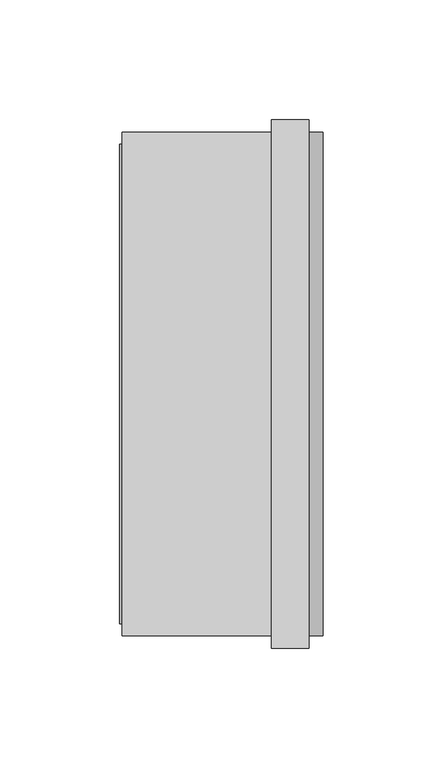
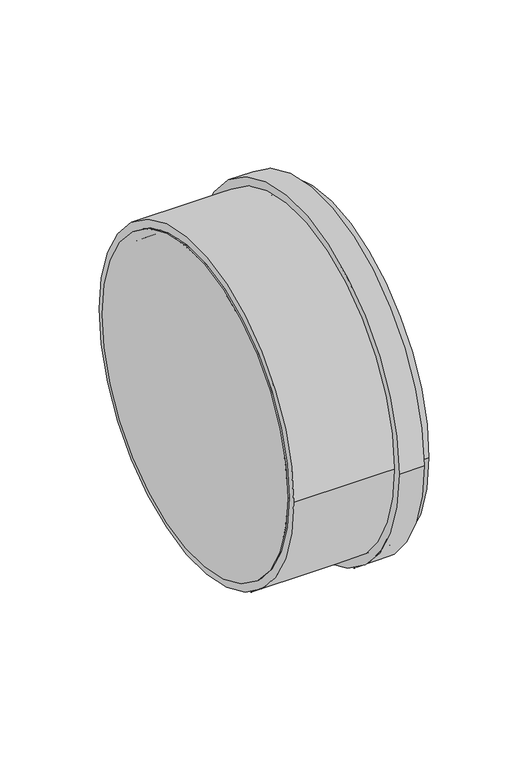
"""IFC4 building model written with IfcOpenShell, lengths in millimetres: pipe fitting geometry, Superdrain SKM-Plug : Superdrain SKM-Plug."""

from ifc_helpers import new_model, si_unit, point, frame, origin, origin_2d, place, context, project, spatial, polyline, circle_curve, trimmed, segment, composite_curve, outline, extrude, source, transform, mapped, element, save
from ifc_brep_helpers import plane_surface, cylinder_surface, revolved_surface, advanced_brep


def pipe_fitting_8be27fc2(model_context):
    return source(origin(), model_context, "Body", "SolidModel", [
        extrude(outline(composite_curve([segment(trimmed(circle_curve(origin_2d(), 105.0), [point((105.0, 0.0))], [point((-105.0, 0.0))], False, "CARTESIAN"), True, "CONTINUOUS"), segment(trimmed(circle_curve(origin_2d(), 105.0), [point((-105.0, 0.0))], [point((105.0, 0.0))], False, "CARTESIAN"), True, "CONTINUOUS")], self_intersect=False), holes=[composite_curve([segment(trimmed(circle_curve(origin_2d(), 100.0), [point((100.0, 0.0))], [point((-100.0, 0.0))], True, "CARTESIAN"), True, "CONTINUOUS"), segment(trimmed(circle_curve(origin_2d(), 100.0), [point((-100.0, 0.0))], [point((100.0, 0.0))], True, "CARTESIAN"), True, "CONTINUOUS")], self_intersect=False)]), frame((0.0, 0.0, 0.0), z_axis=(1.0, 0.0, 0.0), x_axis=(0.0, 1.0, 0.0)), (0.0, 0.0, 1.0), 78.0),
        extrude(outline(composite_curve([segment(trimmed(circle_curve(origin_2d(), 110.25), [point((110.25, 0.0))], [point((-110.25, 0.0))], False, "CARTESIAN"), True, "CONTINUOUS"), segment(trimmed(circle_curve(origin_2d(), 110.25), [point((-110.25, 0.0))], [point((110.25, 0.0))], False, "CARTESIAN"), True, "CONTINUOUS")], self_intersect=False), holes=[composite_curve([segment(trimmed(circle_curve(origin_2d(), 100.0), [point((100.0, 0.0))], [point((-100.0, 0.0))], True, "CARTESIAN"), True, "CONTINUOUS"), segment(trimmed(circle_curve(origin_2d(), 100.0), [point((-100.0, 0.0))], [point((100.0, 0.0))], True, "CARTESIAN"), True, "CONTINUOUS")], self_intersect=False)]), frame((62.4, 0.0, 0.0), z_axis=(1.0, 0.0, 0.0), x_axis=(0.0, 1.0, 0.0)), (0.0, 0.0, 1.0), 15.6),
        extrude(outline(composite_curve([segment(trimmed(circle_curve(origin_2d(), 100.0), [point((100.0, 0.0))], [point((-100.0, 0.0))], False, "CARTESIAN"), True, "CONTINUOUS"), segment(trimmed(circle_curve(origin_2d(), 100.0), [point((-100.0, 0.0))], [point((100.0, 0.0))], False, "CARTESIAN"), True, "CONTINUOUS")], self_intersect=False)), frame((-1.0, 0.0, 0.0), z_axis=(1.0, 0.0, 0.0), x_axis=(0.0, 1.0, 0.0)), (0.0, 0.0, 1.0), 1.0),
        advanced_brep(
        [(0.0, -100.0, 0.0), (0.0, 100.0, 0.0), (0.0, 95.0, 0.0), (0.0, -95.0, 0.0), (84.0, -100.0, 0.0), (84.0, 100.0, 0.0), (78.0, -95.0, 0.0), (78.0, 95.0, 0.0)],
        [
            (0, 1, circle_curve(frame((0.0, 0.0, 0.0), z_axis=(-1.0, 0.0, 0.0), x_axis=(0.0, 1.0, 0.0)), 100.0)),
            (1, 0, circle_curve(frame((0.0, 0.0, 0.0), z_axis=(-1.0, 0.0, 0.0), x_axis=(0.0, 1.0, 0.0)), 100.0)),
            (2, 3, circle_curve(frame((0.0, 0.0, 0.0), z_axis=(1.0, 0.0, 0.0), x_axis=(0.0, 1.0, 0.0)), 95.0)),
            (3, 2, circle_curve(frame((0.0, 0.0, 0.0), z_axis=(1.0, 0.0, 0.0), x_axis=(0.0, 1.0, 0.0)), 95.0)),
            (4, 5, circle_curve(frame((84.0, 0.0, 0.0), z_axis=(1.0, 0.0, 0.0), x_axis=(0.0, 1.0, 0.0)), 100.0)),
            (5, 4, circle_curve(frame((84.0, 0.0, 0.0), z_axis=(1.0, 0.0, 0.0), x_axis=(0.0, 1.0, 0.0)), 100.0)),
            (0, 4),
            (5, 1),
            (6, 7, circle_curve(frame((78.0, 0.0, 0.0), z_axis=(-1.0, 0.0, 0.0), x_axis=(0.0, 1.0, 0.0)), 95.0)),
            (7, 6, circle_curve(frame((78.0, 0.0, 0.0), z_axis=(-1.0, 0.0, 0.0), x_axis=(0.0, 1.0, 0.0)), 95.0)),
            (6, 3),
            (2, 7),
        ],
        [
            plane_surface(frame((0.0, 0.0, 0.0), z_axis=(-1.0, 0.0, 0.0), x_axis=(0.0, 0.0, 1.0))),
            plane_surface(frame((84.0, 0.0, 0.0), z_axis=(1.0, 0.0, 0.0), x_axis=(0.0, 0.0, 1.0))),
            cylinder_surface(frame((0.0, 0.0, 0.0), z_axis=(-1.0, 0.0, 0.0), x_axis=(0.0, 1.0, 0.0)), 100.0),
            plane_surface(frame((78.0, 0.0, 0.0), z_axis=(-1.0, 0.0, 0.0), x_axis=(0.0, 0.0, 1.0))),
            revolved_surface(polyline([(0.0, 95.0, 0.0), (78.0, 95.0, 0.0)]), (-6.0, 0.0, 0.0), (-1.0, 0.0, 0.0)),
        ],
        [
            (0, [[1, 2], [3, 4]]),
            (1, [[5, 6]]),
            (2, [[-1, 7, -6, 8]]),
            (2, [[-2, -8, -5, -7]]),
            (3, [[9, 10]]),
            (4, [[-9, 11, -3, 12]]),
            (4, [[-10, -12, -4, -11]]),
        ],
    ),
        extrude(outline(composite_curve([segment(trimmed(circle_curve(origin_2d(), 105.0), [point((-105.0, 0.0))], [point((105.0, 0.0))], False, "CARTESIAN"), True, "CONTINUOUS"), segment(trimmed(circle_curve(origin_2d(), 105.0), [point((105.0, 0.0))], [point((-105.0, 0.0))], False, "CARTESIAN"), True, "CONTINUOUS")], self_intersect=False)), frame((78.0, 0.0, 0.0), z_axis=(1.0, 0.0, 0.0), x_axis=(0.0, 1.0, 0.0)), (0.0, 0.0, 1.0), 6.0),
    ])


if __name__ == "__main__":
    model = new_model("IFC4")
    model_context = context("Model", 3, world=origin())
    ifc_project = project(units=[si_unit("LENGTHUNIT", "METRE", prefix="MILLI")], contexts=[model_context])
    site = spatial("IfcSite", under=ifc_project)
    building = spatial("IfcBuilding", under=site)
    placement = place(None, origin())
    pipe_fitting_shape = pipe_fitting_8be27fc2(model_context)
    element("IfcPipeFitting", 1, ObjectType="Superdrain SKM-Plug : Superdrain SKM-Plug", at=placement, inside=building, context=model_context, shape_type="MappedRepresentation", body=[
        mapped(pipe_fitting_shape, transform((0.0, 0.0, 0.0), x_axis=(1.0, 0.0, 0.0), y_axis=(0.0, 1.0, 0.0), z_axis=(0.0, 0.0, 1.0))),
    ])
    save(model, "model.ifc")
